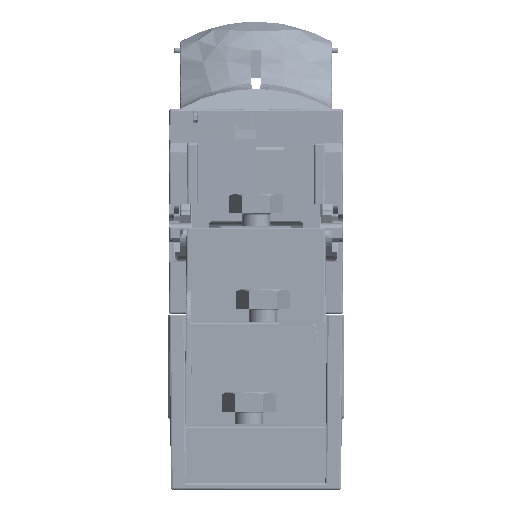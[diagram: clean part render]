
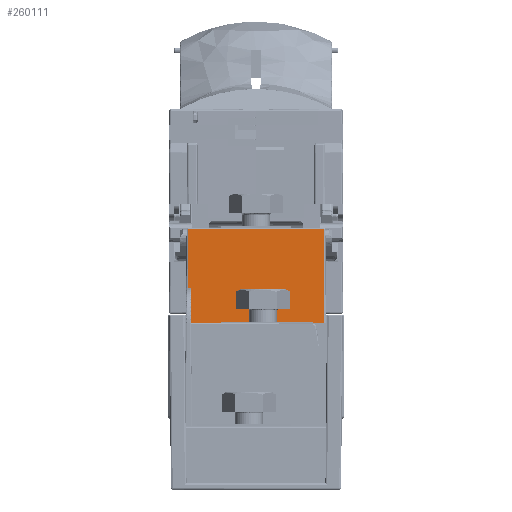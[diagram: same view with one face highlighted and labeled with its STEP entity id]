
A CAD part, left-side view. The second image highlights one B-rep face of the part: STEP entity #260111.
In plain terms, the highlighted planar face has unit normal (-1, 0, 0.009).
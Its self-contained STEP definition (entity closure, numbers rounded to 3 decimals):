
#61431 = AXIS2_PLACEMENT_3D ( 'NONE', #70368, #70370, #70372 ) ;
#70323 = FACE_OUTER_BOUND ( 'NONE', #382801, .T. ) ;
#70328 = PLANE ( 'NONE',  #61431 ) ;
#70368 = CARTESIAN_POINT ( 'NONE',  ( -121., 19.8, 55. ) ) ;
#70370 = DIRECTION ( 'NONE',  ( -1., 0., 0.009 ) ) ;
#70372 = DIRECTION ( 'NONE',  ( 0.009, 0., 1. ) ) ;
#73741 = CARTESIAN_POINT ( 'NONE',  ( -121.25, -2.535, 26.363 ) ) ;
#73744 = CARTESIAN_POINT ( 'NONE',  ( -121.25, -2., 26.363 ) ) ;
#73748 = CARTESIAN_POINT ( 'NONE',  ( -121.25, -0.951, 26.409 ) ) ;
#73752 = CARTESIAN_POINT ( 'NONE',  ( -121.249, -0.408, 26.5 ) ) ;
#73756 = CARTESIAN_POINT ( 'NONE',  ( -121.249, -3.065, 26.411 ) ) ;
#73761 = CARTESIAN_POINT ( 'NONE',  ( -121.249, -3.592, 26.5 ) ) ;
#73773 = CARTESIAN_POINT ( 'NONE',  ( -121.25, -1.481, 26.363 ) ) ;
#73777 = CARTESIAN_POINT ( 'NONE',  ( -121.25, -2., 26.363 ) ) ;
#105709 = VECTOR ( 'NONE', #295367, 1000. ) ;
#105733 = VECTOR ( 'NONE', #295708, 1000. ) ;
#105749 = VECTOR ( 'NONE', #295787, 1000. ) ;
#105789 = VECTOR ( 'NONE', #296298, 1000. ) ;
#105790 = VECTOR ( 'NONE', #296279, 1000. ) ;
#120277 = VERTEX_POINT ( 'NONE', #348939 ) ;
#167938 =( BOUNDED_CURVE ( )  B_SPLINE_CURVE ( 3, ( #296234, #296200, #296250, #296255 ),
 .UNSPECIFIED., .F., .T. ) 
 B_SPLINE_CURVE_WITH_KNOTS ( ( 4, 4 ),
 ( 4.721, 6.283 ),
 .UNSPECIFIED. ) 
 CURVE ( )  GEOMETRIC_REPRESENTATION_ITEM ( )  RATIONAL_B_SPLINE_CURVE ( ( 1., 0.807, 0.807, 1. ) ) 
 REPRESENTATION_ITEM ( '' )  );
#197244 = VERTEX_POINT ( 'NONE', #323384 ) ;
#197260 = VERTEX_POINT ( 'NONE', #323393 ) ;
#197270 = VERTEX_POINT ( 'NONE', #323397 ) ;
#198337 = B_SPLINE_CURVE_WITH_KNOTS ( 'NONE', 3,
 ( #73744, #73741, #73756, #73761 ),
 .UNSPECIFIED., .F., .F.,
 ( 4, 4 ),
 ( 0., 0.002 ),
 .UNSPECIFIED. ) ;
#198345 = B_SPLINE_CURVE_WITH_KNOTS ( 'NONE', 3,
 ( #73752, #73748, #73773, #73777 ),
 .UNSPECIFIED., .F., .F.,
 ( 4, 4 ),
 ( 0., 1. ),
 .UNSPECIFIED. ) ;
#206166 = CARTESIAN_POINT ( 'NONE',  ( -121.236, -19.322, 28. ) ) ;
#206413 = CARTESIAN_POINT ( 'NONE',  ( -121.151, 18.385, 37.703 ) ) ;
#206418 = CARTESIAN_POINT ( 'NONE',  ( -121.236, 18.3, 28. ) ) ;
#234956 = EDGE_CURVE ( 'NONE', #197244, #422120, #295296, .T. ) ;
#235039 = EDGE_CURVE ( 'NONE', #289909, #422113, #295694, .T. ) ;
#235061 = EDGE_CURVE ( 'NONE', #422137, #289909, #295778, .T. ) ;
#235198 = EDGE_CURVE ( 'NONE', #289981, #422162, #167938, .T. ) ;
#235204 = EDGE_CURVE ( 'NONE', #289983, #289981, #296230, .T. ) ;
#235208 = EDGE_CURVE ( 'NONE', #289983, #422190, #296210, .T. ) ;
#260111 = ADVANCED_FACE ( 'NONE', ( #70323 ), #70328, .T. ) ;
#289909 = VERTEX_POINT ( 'NONE', #206166 ) ;
#289981 = VERTEX_POINT ( 'NONE', #206413 ) ;
#289983 = VERTEX_POINT ( 'NONE', #206418 ) ;
#295296 = LINE ( 'NONE', #295351, #105709 ) ;
#295351 = CARTESIAN_POINT ( 'NONE',  ( -121.249, 19.8, 26.5 ) ) ;
#295367 = DIRECTION ( 'NONE',  ( 0., -1., 0. ) ) ;
#295694 = LINE ( 'NONE', #295702, #105733 ) ;
#295702 = CARTESIAN_POINT ( 'NONE',  ( -121.236, -19.322, 28. ) ) ;
#295708 = DIRECTION ( 'NONE',  ( 0.009, 0.009, 1. ) ) ;
#295778 = LINE ( 'NONE', #295785, #105749 ) ;
#295785 = CARTESIAN_POINT ( 'NONE',  ( -121.236, 19.8, 28. ) ) ;
#295787 = DIRECTION ( 'NONE',  ( 0., -1., 0. ) ) ;
#296200 = CARTESIAN_POINT ( 'NONE',  ( -121.149, 18.386, 37.877 ) ) ;
#296210 = LINE ( 'NONE', #296284, #105789 ) ;
#296230 = LINE ( 'NONE', #296261, #105790 ) ;
#296234 = CARTESIAN_POINT ( 'NONE',  ( -121.151, 18.385, 37.703 ) ) ;
#296250 = CARTESIAN_POINT ( 'NONE',  ( -121.148, 18.51, 38. ) ) ;
#296255 = CARTESIAN_POINT ( 'NONE',  ( -121.148, 18.685, 38. ) ) ;
#296261 = CARTESIAN_POINT ( 'NONE',  ( -121.236, 18.3, 28. ) ) ;
#296279 = DIRECTION ( 'NONE',  ( 0.009, 0.009, 1. ) ) ;
#296284 = CARTESIAN_POINT ( 'NONE',  ( -121.236, 19.8, 28. ) ) ;
#296298 = DIRECTION ( 'NONE',  ( 0., -1., 0. ) ) ;
#323384 = CARTESIAN_POINT ( 'NONE',  ( -121.249, -3.592, 26.5 ) ) ;
#323393 = CARTESIAN_POINT ( 'NONE',  ( -121.25, -2., 26.363 ) ) ;
#323397 = CARTESIAN_POINT ( 'NONE',  ( -121.249, -0.408, 26.5 ) ) ;
#330817 = LINE ( 'NONE', #330925, #489577 ) ;
#330925 = CARTESIAN_POINT ( 'NONE',  ( -121.236, -8.413, 28. ) ) ;
#330931 = DIRECTION ( 'NONE',  ( -0.009, 0.009, -1. ) ) ;
#331655 = LINE ( 'NONE', #331665, #489823 ) ;
#331665 = CARTESIAN_POINT ( 'NONE',  ( -121.003, 19.8, 54.703 ) ) ;
#331670 = DIRECTION ( 'NONE',  ( 0., 1., 0. ) ) ;
#332466 = LINE ( 'NONE', #332471, #489904 ) ;
#332471 = CARTESIAN_POINT ( 'NONE',  ( -121.003, 19.089, 54.703 ) ) ;
#332475 = DIRECTION ( 'NONE',  ( -0.009, 0.009, -1. ) ) ;
#332816 = LINE ( 'NONE', #332822, #489978 ) ;
#332822 = CARTESIAN_POINT ( 'NONE',  ( -121.249, 19.8, 26.5 ) ) ;
#332826 = DIRECTION ( 'NONE',  ( 0., -1., 0. ) ) ;
#333421 = LINE ( 'NONE', #333426, #490089 ) ;
#333426 = CARTESIAN_POINT ( 'NONE',  ( -121.148, 19.8, 38. ) ) ;
#348939 = CARTESIAN_POINT ( 'NONE',  ( -121.003, 19.089, 54.703 ) ) ;
#352615 = DIRECTION ( 'NONE',  ( 0., -1., 0. ) ) ;
#352794 = LINE ( 'NONE', #352804, #490121 ) ;
#352804 = CARTESIAN_POINT ( 'NONE',  ( -121.236, 4.413, 28. ) ) ;
#352807 = DIRECTION ( 'NONE',  ( -0.009, -0.009, -1. ) ) ;
#363144 = EDGE_CURVE ( 'NONE', #422137, #422120, #330817, .T. ) ;
#363222 = EDGE_CURVE ( 'NONE', #422113, #120277, #331655, .T. ) ;
#363247 = EDGE_CURVE ( 'NONE', #120277, #422156, #332466, .T. ) ;
#363271 = EDGE_CURVE ( 'NONE', #422149, #197270, #332816, .T. ) ;
#363314 = EDGE_CURVE ( 'NONE', #422156, #422162, #333421, .T. ) ;
#363332 = EDGE_CURVE ( 'NONE', #422190, #422149, #352794, .T. ) ;
#373722 = EDGE_CURVE ( 'NONE', #197260, #197244, #198337, .T. ) ;
#373724 = EDGE_CURVE ( 'NONE', #197270, #197260, #198345, .T. ) ;
#382801 = EDGE_LOOP ( 'NONE', ( #398707, #398709, #398711, #398714, #398717, #398720, #398724, #398727, #398730, #398732, #398736, #398740, #398744, #398748 ) ) ;
#398707 = ORIENTED_EDGE ( 'NONE', *, *, #235061, .T. ) ;
#398709 = ORIENTED_EDGE ( 'NONE', *, *, #235039, .T. ) ;
#398711 = ORIENTED_EDGE ( 'NONE', *, *, #363222, .T. ) ;
#398714 = ORIENTED_EDGE ( 'NONE', *, *, #363247, .T. ) ;
#398717 = ORIENTED_EDGE ( 'NONE', *, *, #363314, .T. ) ;
#398720 = ORIENTED_EDGE ( 'NONE', *, *, #235198, .F. ) ;
#398724 = ORIENTED_EDGE ( 'NONE', *, *, #235204, .F. ) ;
#398727 = ORIENTED_EDGE ( 'NONE', *, *, #235208, .T. ) ;
#398730 = ORIENTED_EDGE ( 'NONE', *, *, #363332, .T. ) ;
#398732 = ORIENTED_EDGE ( 'NONE', *, *, #363271, .T. ) ;
#398736 = ORIENTED_EDGE ( 'NONE', *, *, #373724, .T. ) ;
#398740 = ORIENTED_EDGE ( 'NONE', *, *, #373722, .T. ) ;
#398744 = ORIENTED_EDGE ( 'NONE', *, *, #234956, .T. ) ;
#398748 = ORIENTED_EDGE ( 'NONE', *, *, #363144, .F. ) ;
#422113 = VERTEX_POINT ( 'NONE', #503661 ) ;
#422120 = VERTEX_POINT ( 'NONE', #503671 ) ;
#422137 = VERTEX_POINT ( 'NONE', #503694 ) ;
#422149 = VERTEX_POINT ( 'NONE', #503715 ) ;
#422156 = VERTEX_POINT ( 'NONE', #503724 ) ;
#422162 = VERTEX_POINT ( 'NONE', #503733 ) ;
#422190 = VERTEX_POINT ( 'NONE', #503766 ) ;
#489577 = VECTOR ( 'NONE', #330931, 1000. ) ;
#489823 = VECTOR ( 'NONE', #331670, 1000. ) ;
#489904 = VECTOR ( 'NONE', #332475, 1000. ) ;
#489978 = VECTOR ( 'NONE', #332826, 1000. ) ;
#490089 = VECTOR ( 'NONE', #352615, 1000. ) ;
#490121 = VECTOR ( 'NONE', #352807, 1000. ) ;
#503661 = CARTESIAN_POINT ( 'NONE',  ( -121.003, -19.089, 54.703 ) ) ;
#503671 = CARTESIAN_POINT ( 'NONE',  ( -121.249, -8.4, 26.5 ) ) ;
#503694 = CARTESIAN_POINT ( 'NONE',  ( -121.236, -8.413, 28. ) ) ;
#503715 = CARTESIAN_POINT ( 'NONE',  ( -121.249, 4.4, 26.5 ) ) ;
#503724 = CARTESIAN_POINT ( 'NONE',  ( -121.148, 19.235, 38. ) ) ;
#503733 = CARTESIAN_POINT ( 'NONE',  ( -121.148, 18.685, 38. ) ) ;
#503766 = CARTESIAN_POINT ( 'NONE',  ( -121.236, 4.413, 28. ) ) ;
